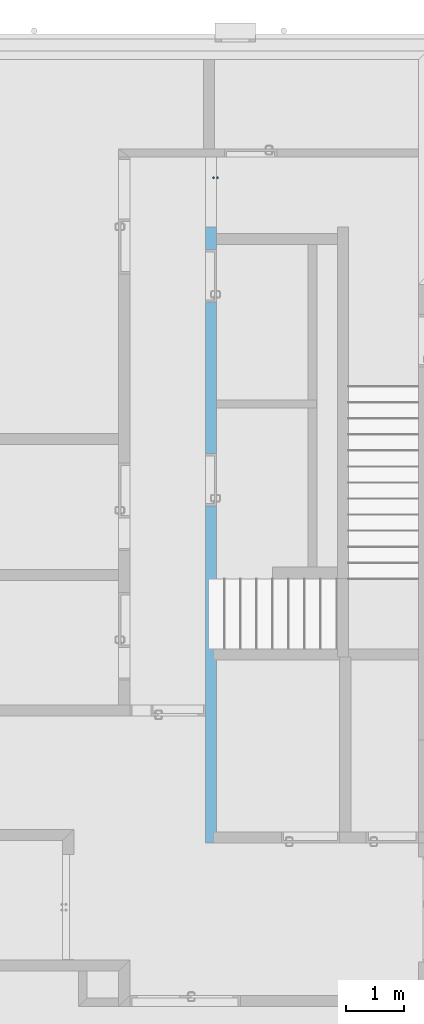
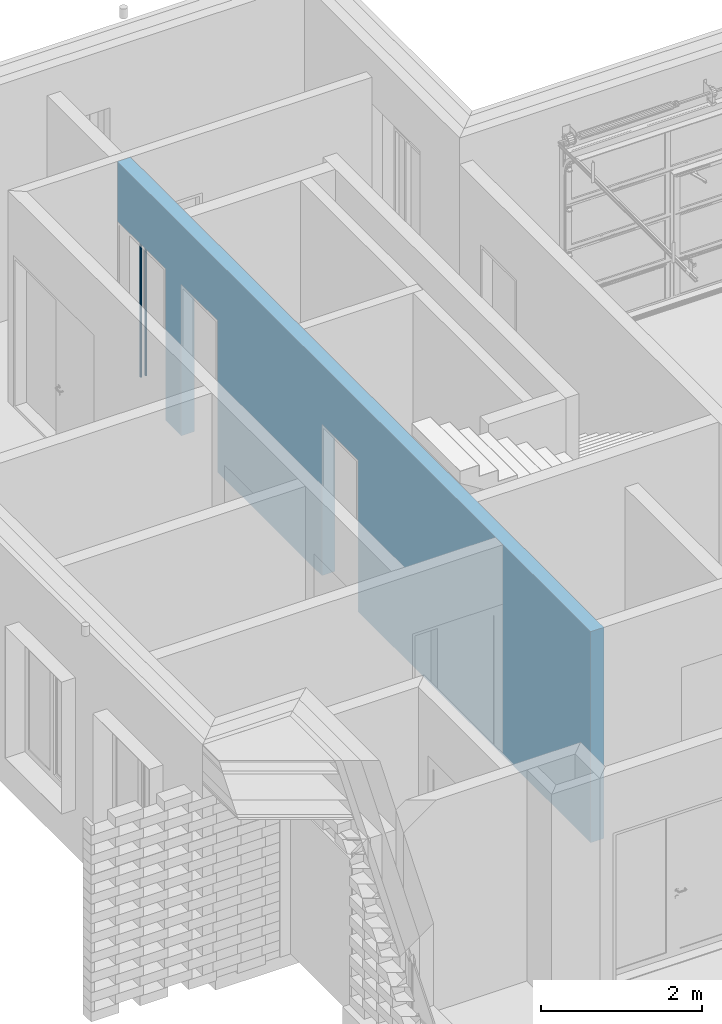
# One storey, part 31 of 62: 1 building element part, 3 openings, 1 element without a shape of its own, plus 1 element that does not belong to this part.
"""IFC2X3 building model written with IfcOpenShell, lengths in millimetres."""

from ifc_helpers import new_model, entity, si_unit, converted_unit, derived_unit, money_unit, direction, frame, origin_with_axes, origin_2d_with_axis, place, context, subcontext, project, spatial, polyline, rectangle, outline, extrude, faceted_brep, material, layer, layer_set, layer_usage, type_object, element, fill, aggregate, save


model = new_model("IFC2X3")

# Units and contexts
model_context = context("Model", 3, precision=0.01, world=origin_with_axes(), true_north=direction((0.0, 1.0)))
body_context = subcontext(model_context, "Body", "Model", "MODEL_VIEW")
ifc_project = project(units=[si_unit("LENGTHUNIT", "METRE", prefix="MILLI"), si_unit("AREAUNIT", "SQUARE_METRE"), si_unit("VOLUMEUNIT", "CUBIC_METRE"), converted_unit("PLANEANGLEUNIT", "DEGREE", entity("IfcPlaneAngleMeasure", 0.0174532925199), si_unit("PLANEANGLEUNIT", "RADIAN"), dimensions=[0, 0, 0, 0, 0, 0, 0]), si_unit("SOLIDANGLEUNIT", "STERADIAN"), money_unit("EUR"), converted_unit("TIMEUNIT", "Year", entity("IfcTimeMeasure", 31556926.0), si_unit("TIMEUNIT", "SECOND"), dimensions=[0, 0, 1, 0, 0, 0, 0]), si_unit("MASSUNIT", "GRAM", prefix="KILO"), si_unit("THERMODYNAMICTEMPERATUREUNIT", "DEGREE_CELSIUS"), si_unit("LUMINOUSINTENSITYUNIT", "LUMEN"), si_unit("ENERGYUNIT", "JOULE", prefix="MEGA"), derived_unit("THERMALCONDUCTANCEUNIT", [(si_unit("POWERUNIT", "WATT"), 1), (si_unit("LENGTHUNIT", "METRE"), -1), (si_unit("THERMODYNAMICTEMPERATUREUNIT", "KELVIN"), -1)]), derived_unit("SPECIFICHEATCAPACITYUNIT", [(si_unit("ENERGYUNIT", "JOULE"), 1), (si_unit("MASSUNIT", "GRAM", prefix="KILO"), -1), (si_unit("THERMODYNAMICTEMPERATUREUNIT", "KELVIN"), -1)]), derived_unit("MASSDENSITYUNIT", [(si_unit("MASSUNIT", "GRAM", prefix="KILO"), 1), (si_unit("VOLUMEUNIT", "CUBIC_METRE"), -1)])], contexts=[model_context])

# Site, building, storey
site_placement = place(None, origin_with_axes())
site = spatial("IfcSite", under=ifc_project, at=site_placement, Name="KIRDE 14, ELVA", CompositionType="ELEMENT")
building_placement = place(site_placement, origin_with_axes())
building = spatial("IfcBuilding", under=site, at=building_placement, Name="PPA ja Päästeameti ühishoone", CompositionType="ELEMENT")
storey_placement = place(building_placement, origin_with_axes())
storey = spatial("IfcBuildingStorey", under=building, at=storey_placement, Name="Esimene korrus", CompositionType="ELEMENT", Elevation=0.0)

# Wall, openings, door, building element part
ifc_material_1 = material(Name="COLUMBIA KIVI (BETONEERITUD)")
ifc_layer = layer(ifc_material_1, 190.0, ventilated="UNKNOWN")
ifc_layer_set = layer_set([ifc_layer], Name="SS-02")
ifc_layer_usage = layer_usage(ifc_layer_set, "AXIS2", "NEGATIVE", 190.0)
wall_type = type_object("IfcWallType", Name="SS-02 190", PredefinedType="USERDEFINED")
wall_placement = place(storey_placement, frame((5440.00010282, 11173.3966704, 0.0), z_axis=(0.0, 0.0, 1.0), x_axis=(0.0, 1.0, 0.0)))
wall = element("IfcWallStandardCase", 1, at=wall_placement, inside=storey, type_object=wall_type, material=ifc_layer_usage, Name="SS-02", ObjectType="PARTITIONING", context=body_context, shape_type="SweptSolid", body=[
    extrude(outline(polyline([(0.0, 0.0), (11755.1914193, 0.0), (11755.1914193, 190.0), (0.0, 190.0), (0.0, 0.0)])), origin_with_axes(), (0.0, 0.0, 1.0), 3200.0),
])
opening_1_placement = place(wall_placement, frame((6225.60322713, 0.0, 0.0), z_axis=(0.0, 0.0, 1.0), x_axis=(1.0, 0.0, 0.0)))
element("IfcOpeningElement", 2, at=opening_1_placement, cuts=wall, Name="SU-18*", context=body_context, shape_type="SweptSolid", body=[
    extrude(rectangle(XDim=900.0, YDim=2300.0, at=origin_2d_with_axis()), frame((0.0, 190.0, 1150.0), z_axis=(0.0, 1.0, 0.0), x_axis=(1.0, 0.0, 0.0)), (0.0, 0.0, -1.0), 570.0),
])
opening_2_placement = place(wall_placement, frame((11155.6029627, 0.0, 0.0), z_axis=(0.0, 0.0, 1.0), x_axis=(1.0, 0.0, 0.0)))
opening_2 = element("IfcOpeningElement", 3, at=opening_2_placement, cuts=wall, Name="SU-05", context=body_context, shape_type="SweptSolid", body=[
    extrude(rectangle(XDim=1200.0, YDim=2300.0, at=origin_2d_with_axis()), frame((0.0, 190.0, 1150.0), z_axis=(0.0, -1.0, 0.0), x_axis=(-1.0, 0.0, 0.0)), (0.0, 0.0, 1.0), 570.0),
])
opening_3_placement = place(wall_placement, frame((9719.62798328, 0.0, 0.0), z_axis=(0.0, 0.0, 1.0), x_axis=(1.0, 0.0, 0.0)))
element("IfcOpeningElement", 4, at=opening_3_placement, cuts=wall, Name="SU-32", context=body_context, shape_type="SweptSolid", body=[
    extrude(rectangle(XDim=900.0, YDim=2300.0, at=origin_2d_with_axis()), frame((0.0, 190.0, 1150.0), z_axis=(0.0, 1.0, 0.0), x_axis=(1.0, 0.0, 0.0)), (0.0, 0.0, -1.0), 570.0),
])
door_style = type_object("IfcDoorStyle", Name="Door with Sidelight on Side 2 24", ConstructionType="NOTDEFINED", OperationType="SINGLE_SWING_RIGHT", ParameterTakesPrecedence=False, Sizeable=False)
door_placement = place(opening_2_placement, frame((600.0, 0.0, 0.0), z_axis=(0.0, 0.0, 1.0), x_axis=(-1.0, 0.0, 0.0)))
door = element("IfcDoor", 5, at=door_placement, inside=storey, type_object=door_style, Name="SU-05", ObjectType="DOOR", OverallHeight=2300.0, OverallWidth=1200.0)
fill(opening_2, door)
ifc_material_2 = material(Name="Fire Proofing")
building_element_part_placement = place(door_placement, origin_with_axes())
building_element_part = element("IfcBuildingElementPart", 6, at=building_element_part_placement, material=ifc_material_2, Name="Fire Proofing", context=body_context, shape_type="Brep", body=[
    faceted_brep([(338.0, -55.0, 2200.0), (340.009618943, -47.5, 2200.0), (340.009618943, -47.5, 100.0), (338.0, -55.0, 100.0), (340.009618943, -62.5, 2200.0), (345.5, -67.9903810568, 2200.0), (353.0, -70.0, 2200.0), (360.5, -67.9903810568, 2200.0), (365.990381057, -62.5, 2200.0), (368.0, -55.0, 2200.0), (365.990381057, -47.5, 2200.0), (360.5, -42.0096189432, 2200.0), (353.0, -40.0, 2200.0), (345.5, -42.0096189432, 2200.0), (340.072821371, -55.0, 2200.0), (343.85910433, -45.8591043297, 2200.0), (353.0, -42.0728213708, 2200.0), (362.14089567, -45.8591043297, 2200.0), (365.927178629, -55.0, 2200.0), (362.14089567, -64.1408956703, 2200.0), (353.0, -67.9271786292, 2200.0), (343.85910433, -64.1408956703, 2200.0), (345.5, -42.0096189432, 100.0), (353.0, -40.0, 100.0), (360.5, -42.0096189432, 100.0), (365.990381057, -47.5, 100.0), (368.0, -55.0, 100.0), (365.990381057, -62.5, 100.0), (360.5, -67.9903810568, 100.0), (353.0, -70.0, 100.0), (345.5, -67.9903810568, 100.0), (340.009618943, -62.5, 100.0), (340.072821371, -55.0, 100.0), (343.85910433, -64.1408956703, 100.0), (353.0, -67.9271786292, 100.0), (362.14089567, -64.1408956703, 100.0), (365.927178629, -55.0, 100.0), (362.14089567, -45.8591043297, 100.0), (353.0, -42.0728213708, 100.0), (343.85910433, -45.8591043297, 100.0)], [[[0, 1, 2, 3]], [[0, 4, 5, 6, 7, 8, 9, 10, 11, 12, 13, 1], [14, 15, 16, 17, 18, 19, 20, 21]], [[1, 13, 22, 2]], [[3, 2, 22, 23, 24, 25, 26, 27, 28, 29, 30, 31], [32, 33, 34, 35, 36, 37, 38, 39]], [[4, 0, 3, 31]], [[5, 4, 31, 30]], [[6, 5, 30, 29]], [[7, 6, 29, 28]], [[8, 7, 28, 27]], [[9, 8, 27, 26]], [[10, 9, 26, 25]], [[11, 10, 25, 24]], [[12, 11, 24, 23]], [[13, 12, 23, 22]], [[15, 14, 32, 39]], [[16, 15, 39, 38]], [[17, 16, 38, 37]], [[18, 17, 37, 36]], [[19, 18, 36, 35]], [[20, 19, 35, 34]], [[21, 20, 34, 33]], [[14, 21, 33, 32]]]),
    faceted_brep([(338.0, 15.0, 2200.0), (338.0, 15.0, 100.0), (340.009618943, 7.5, 100.0), (340.009618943, 7.5, 2200.0), (340.009618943, 22.5, 2200.0), (340.009618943, 22.5, 100.0), (345.5, 27.9903810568, 100.0), (353.0, 30.0, 100.0), (360.5, 27.9903810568, 100.0), (365.990381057, 22.5, 100.0), (368.0, 15.0, 100.0), (365.990381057, 7.5, 100.0), (360.5, 2.00961894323, 100.0), (353.0, 0.0, 100.0), (345.5, 2.00961894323, 100.0), (340.072821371, 15.0, 100.0), (343.85910433, 5.85910432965, 100.0), (353.0, 2.07282137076, 100.0), (362.14089567, 5.85910432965, 100.0), (365.927178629, 15.0, 100.0), (362.14089567, 24.1408956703, 100.0), (353.0, 27.9271786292, 100.0), (343.85910433, 24.1408956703, 100.0), (345.5, 2.00961894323, 2200.0), (353.0, 0.0, 2200.0), (360.5, 2.00961894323, 2200.0), (365.990381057, 7.5, 2200.0), (368.0, 15.0, 2200.0), (365.990381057, 22.5, 2200.0), (360.5, 27.9903810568, 2200.0), (353.0, 30.0, 2200.0), (345.5, 27.9903810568, 2200.0), (340.072821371, 15.0, 2200.0), (343.85910433, 24.1408956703, 2200.0), (353.0, 27.9271786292, 2200.0), (362.14089567, 24.1408956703, 2200.0), (365.927178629, 15.0, 2200.0), (362.14089567, 5.85910432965, 2200.0), (353.0, 2.07282137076, 2200.0), (343.85910433, 5.85910432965, 2200.0)], [[[0, 1, 2, 3]], [[4, 5, 1, 0]], [[1, 5, 6, 7, 8, 9, 10, 11, 12, 13, 14, 2], [15, 16, 17, 18, 19, 20, 21, 22]], [[3, 2, 14, 23]], [[0, 3, 23, 24, 25, 26, 27, 28, 29, 30, 31, 4], [32, 33, 34, 35, 36, 37, 38, 39]], [[31, 6, 5, 4]], [[30, 7, 6, 31]], [[29, 8, 7, 30]], [[28, 9, 8, 29]], [[27, 10, 9, 28]], [[26, 11, 10, 27]], [[25, 12, 11, 26]], [[24, 13, 12, 25]], [[23, 14, 13, 24]], [[39, 16, 15, 32]], [[38, 17, 16, 39]], [[37, 18, 17, 38]], [[36, 19, 18, 37]], [[35, 20, 19, 36]], [[34, 21, 20, 35]], [[33, 22, 21, 34]], [[32, 15, 22, 33]]]),
])
aggregate(door, [building_element_part])

save(model, "model.ifc")
